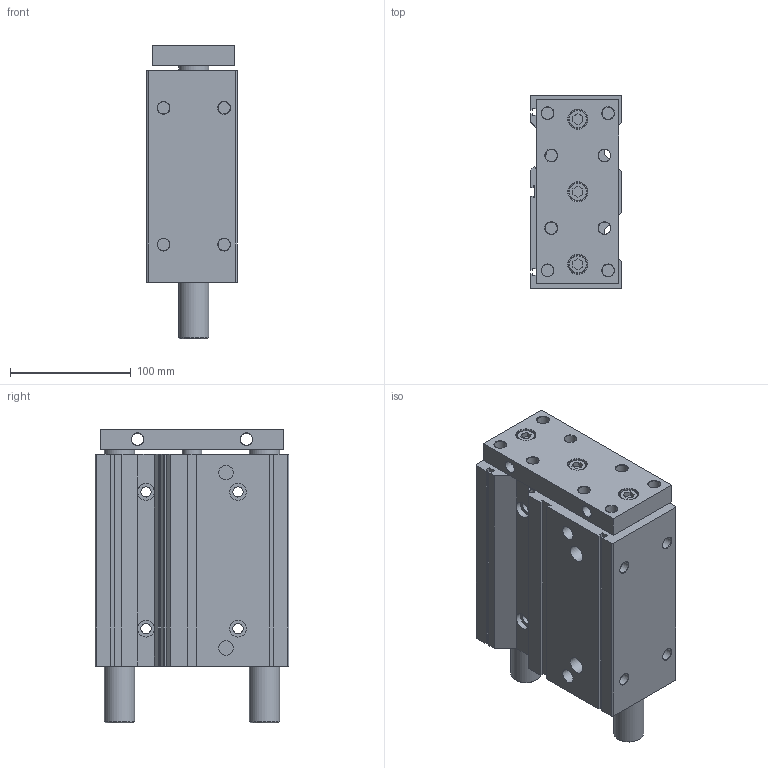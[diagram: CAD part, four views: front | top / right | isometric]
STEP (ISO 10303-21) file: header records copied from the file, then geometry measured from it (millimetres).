
FILE_DESCRIPTION((''),'2;1');
FILE_NAME('I:\3D電子目錄\氣缸\TB(U)\TB(U)63\TB(U)63\TB(U)63x125.stp','2007-08-06T09:29:33',('Administrator'),(''),'Autodesk Inventor 2008','Autodesk Inventor 2008','');
FILE_SCHEMA(('AUTOMOTIVE_DESIGN { 1 0 10303 214 1 1 1 1 }'));
Length unit declared in the file: millimetre
Products named in the file (1): TB(U)63X125
Bounding box: 75 x 160 x 243 mm (x, y, z)
Volume: 2049164.4 mm3; surface area: 177049.1 mm2
Topology: 1 solids, 1 shells, 206 faces, 462 edges, 294 vertices
Faces by surface type: plane 106, cylinder 52, cone 37, bspline 8, torus 3
Full cylindrical faces by diameter (mm): 8.5 x4, 10 x22, 12 x2, 14 x4, 15 x3, 16 x4, 25 x4, 32 x2, 60 x1
Entity records: 5380 total; most frequent: CARTESIAN_POINT 949, DIRECTION 924, ORIENTED_EDGE 740, EDGE_CURVE 370, EDGE_LOOP 364, AXIS2_PLACEMENT_3D 355, VERTEX_POINT 292, VECTOR 214
